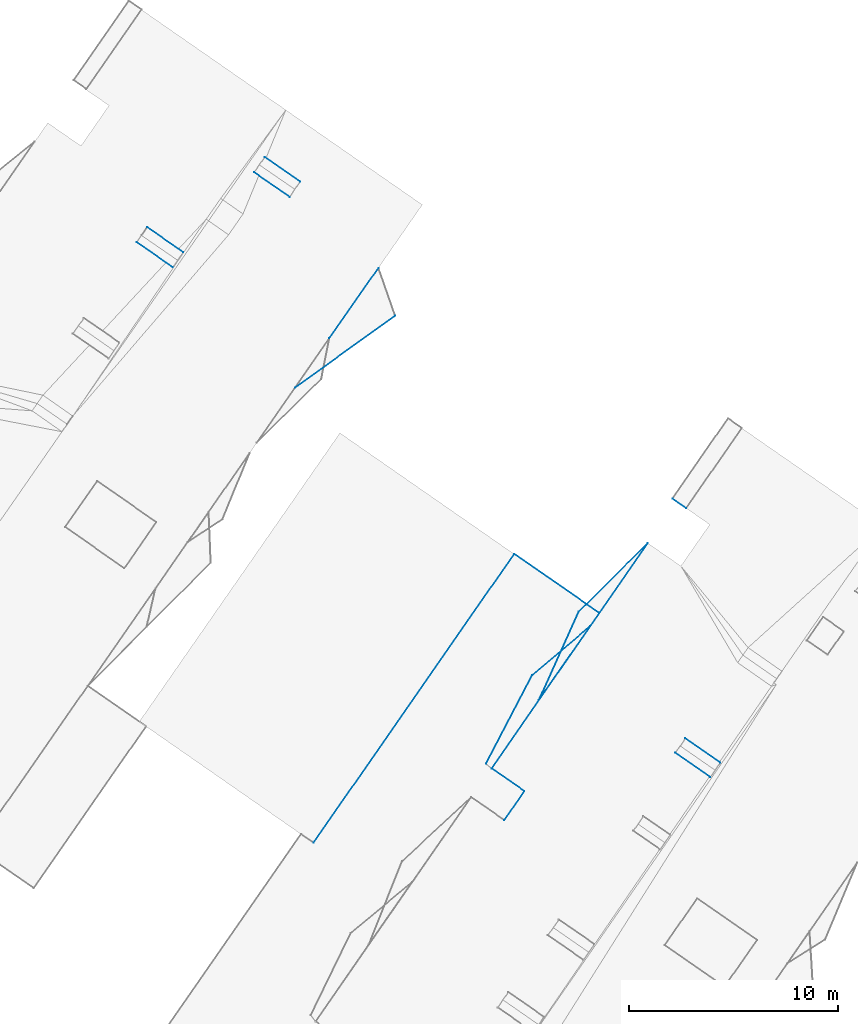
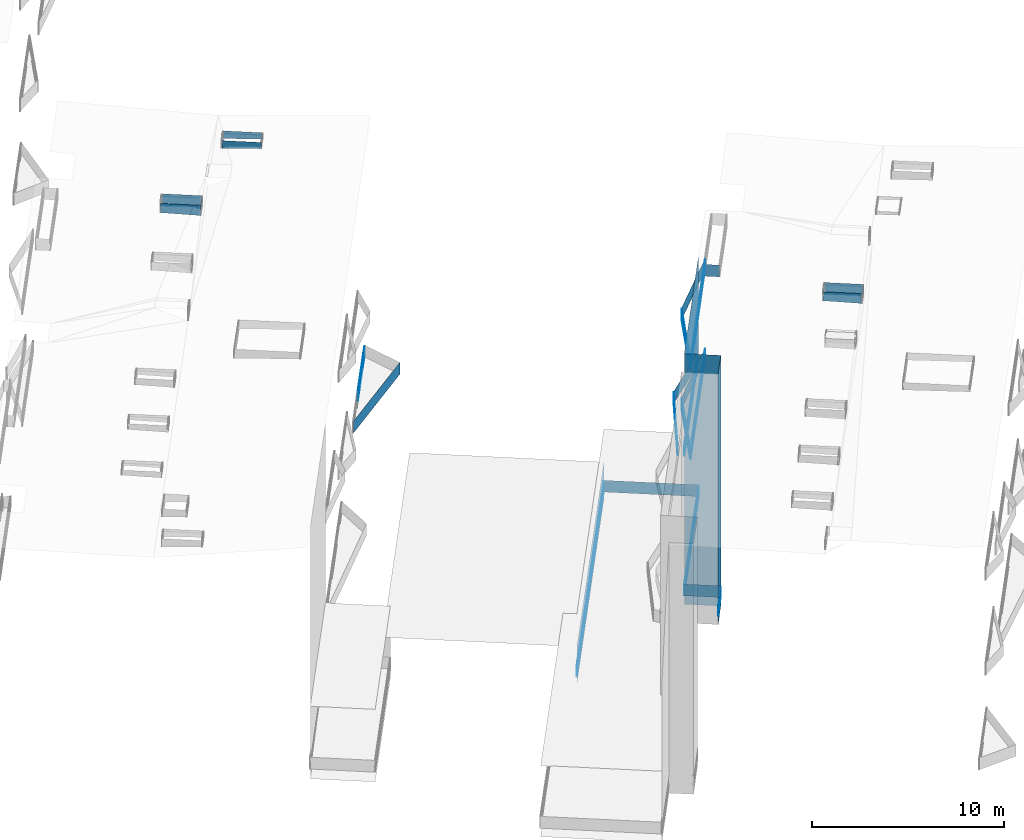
# Not in any storey, part 41 of 136: 44 walls.
"""IFC4 building model written with IfcOpenShell, lengths in metres."""

from ifc_helpers import new_model, entity, si_unit, converted_unit, frame, origin, place, context, subcontext, project, spatial, face_set, surface_model, element, save


model = new_model("IFC4")

# Units and contexts
model_context = context("Model", 3, precision=1e-05, world=origin())
body_context = subcontext(model_context, "Body", "Model", "MODEL_VIEW")
ifc_project = project(units=[converted_unit("PLANEANGLEUNIT", "DEGREE", entity("IfcRatioMeasure", 0.0174532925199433), si_unit("PLANEANGLEUNIT", "RADIAN"), dimensions=[0, 0, 0, 0, 0, 0, 0]), si_unit("AREAUNIT", "SQUARE_METRE"), si_unit("LENGTHUNIT", "METRE")], contexts=[model_context])

# Site, building
site_placement = place(None, origin())
site = spatial("IfcSite", under=ifc_project, at=site_placement, Name="_site")
building_1_placement = place(site_placement, origin())
building_1 = spatial("IfcBuilding", under=site, at=building_1_placement, Name="_building")

# Walls
wall_1_placement = place(building_1_placement, origin())
element("IfcWall", 1, at=wall_1_placement, inside=building_1, Name="Wall", PredefinedType="NOTDEFINED", context=body_context, shape_type="SurfaceModel", body=[
    surface_model("IfcFaceBasedSurfaceModel", [(-17.93, 61.93, 44.4), (-16.02, 66.17, 44.4), (-16.02, 66.17, 45.15), (-17.93, 61.93, 45.15)], [face_set([[[0, 1, 2, 3]]])]),
])
wall_2_placement = place(building_1_placement, origin())
element("IfcWall", 2, at=wall_2_placement, inside=building_1, Name="Wall", PredefinedType="NOTDEFINED", context=body_context, shape_type="SurfaceModel", body=[
    surface_model("IfcFaceBasedSurfaceModel", [(-16.02, 66.17, 44.4), (-12.71, 69.46, 44.4), (-12.71, 69.46, 45.15), (-16.02, 66.17, 45.15)], [face_set([[[0, 1, 2, 3]]])]),
])
wall_3_placement = place(building_1_placement, origin())
element("IfcWall", 3, at=wall_3_placement, inside=building_1, Name="Wall", PredefinedType="NOTDEFINED", context=body_context, shape_type="SurfaceModel", body=[
    surface_model("IfcFaceBasedSurfaceModel", [(-12.71, 69.46, 44.4), (-17.93, 61.93, 44.4), (-17.93, 61.93, 45.15), (-12.71, 69.46, 45.15)], [face_set([[[0, 1, 2, 3]]])]),
])
wall_4_placement = place(building_1_placement, origin())
element("IfcWall", 4, at=wall_4_placement, inside=building_1, Name="Wall", PredefinedType="NOTDEFINED", context=body_context, shape_type="SurfaceModel", body=[
    surface_model("IfcFaceBasedSurfaceModel", [(-16.02, 66.17, 44.4), (-12.71, 69.46, 44.4), (-12.71, 69.46, 45.15), (-16.02, 66.17, 45.15)], [face_set([[[0, 1, 2, 3]]])]),
])
wall_5_placement = place(building_1_placement, origin())
element("IfcWall", 5, at=wall_5_placement, inside=building_1, Name="Wall", PredefinedType="NOTDEFINED", context=body_context, shape_type="SurfaceModel", body=[
    surface_model("IfcFaceBasedSurfaceModel", [(-17.93, 61.93, 44.4), (-16.02, 66.17, 44.4), (-16.02, 66.17, 45.15), (-17.93, 61.93, 45.15)], [face_set([[[0, 1, 2, 3]]])]),
])
wall_6_placement = place(building_1_placement, origin())
element("IfcWall", 6, at=wall_6_placement, inside=building_1, Name="Wall", PredefinedType="NOTDEFINED", context=body_context, shape_type="SurfaceModel", body=[
    surface_model("IfcFaceBasedSurfaceModel", [(-12.71, 69.46, 44.4), (-17.93, 61.93, 44.4), (-17.93, 61.93, 45.15), (-12.71, 69.46, 45.15)], [face_set([[[0, 1, 2, 3]]])]),
])
wall_7_placement = place(building_1_placement, origin())
element("IfcWall", 7, at=wall_7_placement, inside=building_1, Name="Wall", PredefinedType="NOTDEFINED", context=body_context, shape_type="SurfaceModel", body=[
    surface_model("IfcFaceBasedSurfaceModel", [(-18.62, 57.58, 38.52), (-19.58, 56.19, 38.52), (-19.58, 56.19, 39.27), (-18.62, 57.58, 39.27)], [face_set([[[0, 1, 2, 3]]])]),
])
wall_8_placement = place(building_1_placement, origin())
element("IfcWall", 8, at=wall_8_placement, inside=building_1, Name="Wall", PredefinedType="NOTDEFINED", context=body_context, shape_type="SurfaceModel", body=[
    surface_model("IfcFaceBasedSurfaceModel", [(-20.19, 58.67, 38.52), (-18.62, 57.58, 38.52), (-18.62, 57.58, 39.27), (-20.19, 58.67, 39.27)], [face_set([[[0, 1, 2, 3]]])]),
])
wall_9_placement = place(building_1_placement, origin())
element("IfcWall", 9, at=wall_9_placement, inside=building_1, Name="Wall", PredefinedType="NOTDEFINED", context=body_context, shape_type="SurfaceModel", body=[
    surface_model("IfcFaceBasedSurfaceModel", [(-15.03, 66.11, 38.52), (-20.19, 58.67, 38.52), (-20.19, 58.67, 39.27), (-15.03, 66.11, 39.27)], [face_set([[[0, 1, 2, 3]]])]),
])
wall_10_placement = place(building_1_placement, origin())
element("IfcWall", 10, at=wall_10_placement, inside=building_1, Name="Wall", PredefinedType="NOTDEFINED", context=body_context, shape_type="SurfaceModel", body=[
    surface_model("IfcFaceBasedSurfaceModel", [(-19.11, 68.94, 38.52), (-15.03, 66.11, 38.52), (-15.03, 66.11, 39.27), (-19.11, 68.94, 39.27)], [face_set([[[0, 1, 2, 3]]])]),
])
wall_11_placement = place(building_1_placement, origin())
element("IfcWall", 11, at=wall_11_placement, inside=building_1, Name="Wall", PredefinedType="NOTDEFINED", context=body_context, shape_type="SurfaceModel", body=[
    surface_model("IfcFaceBasedSurfaceModel", [(-28.72, 55.11, 38.52), (-19.11, 68.94, 38.52), (-19.11, 68.94, 39.27), (-28.72, 55.11, 39.27)], [face_set([[[0, 1, 2, 3]]])]),
])
wall_12_placement = place(building_1_placement, origin())
element("IfcWall", 12, at=wall_12_placement, inside=building_1, Name="Wall", PredefinedType="NOTDEFINED", context=body_context, shape_type="SurfaceModel", body=[
    surface_model("IfcFaceBasedSurfaceModel", [(-10.91, 60.11, 54.35), (-9.24, 58.95, 54.35), (-9.24, 58.95, 53.711), (-10.91, 60.11, 53.766)], [face_set([[[0, 1, 2, 3]]])]),
])
wall_13_placement = place(building_1_placement, origin())
element("IfcWall", 13, at=wall_13_placement, inside=building_1, Name="Wall", PredefinedType="NOTDEFINED", context=body_context, shape_type="SurfaceModel", body=[
    surface_model("IfcFaceBasedSurfaceModel", [(-9.72, 58.26, 54.35), (-11.39, 59.42, 54.35), (-11.39, 59.42, 53.771), (-9.72, 58.26, 53.716)], [face_set([[[0, 1, 2, 3]]])]),
])
wall_14_placement = place(building_1_placement, origin())
element("IfcWall", 14, at=wall_14_placement, inside=building_1, Name="Wall", PredefinedType="NOTDEFINED", context=body_context, shape_type="SurfaceModel", body=[
    surface_model("IfcFaceBasedSurfaceModel", [(-18.62, 57.58, 53.94), (-20.19, 58.67, 53.94), (-20.19, 58.67, 37.98), (-18.62, 57.58, 37.98)], [face_set([[[0, 1, 2, 3]]])]),
])
wall_15_placement = place(building_1_placement, origin())
element("IfcWall", 15, at=wall_15_placement, inside=building_1, Name="Wall", PredefinedType="NOTDEFINED", context=body_context, shape_type="SurfaceModel", body=[
    surface_model("IfcFaceBasedSurfaceModel", [(-18.25, 63.13, 47.4), (-15.46, 65.49, 47.4), (-15.46, 65.49, 48.15), (-18.25, 63.13, 48.15)], [face_set([[[0, 1, 2, 3]]])]),
])
wall_16_placement = place(building_1_placement, origin())
element("IfcWall", 16, at=wall_16_placement, inside=building_1, Name="Wall", PredefinedType="NOTDEFINED", context=body_context, shape_type="SurfaceModel", body=[
    surface_model("IfcFaceBasedSurfaceModel", [(-20.46, 58.9, 47.4), (-18.25, 63.13, 47.4), (-18.25, 63.13, 48.15), (-20.46, 58.9, 48.15)], [face_set([[[0, 1, 2, 3]]])]),
])
wall_17_placement = place(building_1_placement, origin())
element("IfcWall", 17, at=wall_17_placement, inside=building_1, Name="Wall", PredefinedType="NOTDEFINED", context=body_context, shape_type="SurfaceModel", body=[
    surface_model("IfcFaceBasedSurfaceModel", [(-15.46, 65.49, 47.4), (-20.19, 58.67, 47.4), (-20.19, 58.67, 48.15), (-15.46, 65.49, 48.15)], [face_set([[[0, 1, 2, 3]]])]),
])
wall_18_placement = place(building_1_placement, origin())
element("IfcWall", 18, at=wall_18_placement, inside=building_1, Name="Wall", PredefinedType="NOTDEFINED", context=body_context, shape_type="SurfaceModel", body=[
    surface_model("IfcFaceBasedSurfaceModel", [(-18.25, 63.13, 47.4), (-15.46, 65.49, 47.4), (-15.46, 65.49, 48.15), (-18.25, 63.13, 48.15)], [face_set([[[0, 1, 2, 3]]])]),
])
wall_19_placement = place(building_1_placement, origin())
element("IfcWall", 19, at=wall_19_placement, inside=building_1, Name="Wall", PredefinedType="NOTDEFINED", context=body_context, shape_type="SurfaceModel", body=[
    surface_model("IfcFaceBasedSurfaceModel", [(-20.46, 58.9, 47.4), (-18.25, 63.13, 47.4), (-18.25, 63.13, 48.15), (-20.46, 58.9, 48.15)], [face_set([[[0, 1, 2, 3]]])]),
])
wall_20_placement = place(building_1_placement, origin())
element("IfcWall", 20, at=wall_20_placement, inside=building_1, Name="Wall", PredefinedType="NOTDEFINED", context=body_context, shape_type="SurfaceModel", body=[
    surface_model("IfcFaceBasedSurfaceModel", [(-15.46, 65.49, 47.4), (-20.19, 58.67, 47.4), (-20.19, 58.67, 48.15), (-15.46, 65.49, 48.15)], [face_set([[[0, 1, 2, 3]]])]),
])
wall_21_placement = place(building_1_placement, origin())
element("IfcWall", 21, at=wall_21_placement, inside=building_1, Name="Wall", PredefinedType="NOTDEFINED", context=body_context, shape_type="SurfaceModel", body=[
    surface_model("IfcFaceBasedSurfaceModel", [(-19.11, 68.94, 40.43), (-28.72, 55.11, 40.43), (-28.72, 55.11, 37.98), (-19.11, 68.94, 37.98)], [face_set([[[0, 1, 2, 3]]])]),
])
wall_22_placement = place(building_1_placement, origin())
element("IfcWall", 22, at=wall_22_placement, inside=building_1, Name="Wall", PredefinedType="NOTDEFINED", context=body_context, shape_type="SurfaceModel", body=[
    surface_model("IfcFaceBasedSurfaceModel", [(-20.19, 58.67, 53.94), (-15.03, 66.11, 53.94), (-15.03, 66.11, 37.98), (-20.19, 58.67, 37.98)], [face_set([[[0, 1, 2, 3]]])]),
])
wall_23_placement = place(building_1_placement, origin())
element("IfcWall", 23, at=wall_23_placement, inside=building_1, Name="Wall", PredefinedType="NOTDEFINED", context=body_context, shape_type="SurfaceModel", body=[
    surface_model("IfcFaceBasedSurfaceModel", [(-19.58, 56.19, 53.94), (-18.62, 57.58, 53.94), (-18.62, 57.58, 37.98), (-19.58, 56.19, 37.98)], [face_set([[[0, 1, 2, 3]]])]),
])
wall_24_placement = place(building_1_placement, origin())
element("IfcWall", 24, at=wall_24_placement, inside=building_1, Name="Wall", PredefinedType="NOTDEFINED", context=body_context, shape_type="SurfaceModel", body=[
    surface_model("IfcFaceBasedSurfaceModel", [(-18.62, 57.58, 38.52), (-19.58, 56.19, 38.52), (-19.58, 56.19, 39.27), (-18.62, 57.58, 39.27)], [face_set([[[0, 1, 2, 3]]])]),
])
for number, where, name in (
    (25, (0.0, 0.0, 0.0), "Wall"),
    (26, (0.0, 0.0, 0.0), "Wall"),
):
    element("IfcWall", number, at=place(building_1_placement, frame(where)), inside=building_1, Name=name, PredefinedType="NOTDEFINED", context=body_context, shape_type="SurfaceModel", body=[
        surface_model("IfcFaceBasedSurfaceModel", [(-10.87, 71.13, 48.01), (-11.53, 71.59, 48.01), (-11.53, 71.59, 48.76), (-10.87, 71.13, 48.76)], [face_set([[[0, 1, 2, 3]]])]),
    ])
wall_25_placement = place(building_1_placement, origin())
element("IfcWall", 27, at=wall_25_placement, inside=building_1, Name="Wall", PredefinedType="NOTDEFINED", context=body_context, shape_type="SurfaceModel", body=[
    surface_model("IfcFaceBasedSurfaceModel", [(-20.19, 58.67, 38.52), (-18.62, 57.58, 38.52), (-18.62, 57.58, 39.27), (-20.19, 58.67, 39.27)], [face_set([[[0, 1, 2, 3]]])]),
])
wall_26_placement = place(building_1_placement, origin())
element("IfcWall", 28, at=wall_26_placement, inside=building_1, Name="Wall", PredefinedType="NOTDEFINED", context=body_context, shape_type="SurfaceModel", body=[
    surface_model("IfcFaceBasedSurfaceModel", [(-15.03, 66.11, 38.52), (-20.19, 58.67, 38.52), (-20.19, 58.67, 39.27), (-15.03, 66.11, 39.27)], [face_set([[[0, 1, 2, 3]]])]),
])
wall_27_placement = place(building_1_placement, origin())
element("IfcWall", 29, at=wall_27_placement, inside=building_1, Name="Wall", PredefinedType="NOTDEFINED", context=body_context, shape_type="SurfaceModel", body=[
    surface_model("IfcFaceBasedSurfaceModel", [(-19.11, 68.94, 38.52), (-15.03, 66.11, 38.52), (-15.03, 66.11, 39.27), (-19.11, 68.94, 39.27)], [face_set([[[0, 1, 2, 3]]])]),
])
wall_28_placement = place(building_1_placement, origin())
element("IfcWall", 30, at=wall_28_placement, inside=building_1, Name="Wall", PredefinedType="NOTDEFINED", context=body_context, shape_type="SurfaceModel", body=[
    surface_model("IfcFaceBasedSurfaceModel", [(-16.02, 66.17, 50.1), (-12.71, 69.46, 50.1), (-12.71, 69.46, 50.85), (-16.02, 66.17, 50.85)], [face_set([[[0, 1, 2, 3]]])]),
])
wall_29_placement = place(building_1_placement, origin())
element("IfcWall", 31, at=wall_29_placement, inside=building_1, Name="Wall", PredefinedType="NOTDEFINED", context=body_context, shape_type="SurfaceModel", body=[
    surface_model("IfcFaceBasedSurfaceModel", [(-17.93, 61.93, 50.1), (-16.02, 66.17, 50.1), (-16.02, 66.17, 50.85), (-17.93, 61.93, 50.85)], [face_set([[[0, 1, 2, 3]]])]),
])
wall_30_placement = place(building_1_placement, origin())
element("IfcWall", 32, at=wall_30_placement, inside=building_1, Name="Wall", PredefinedType="NOTDEFINED", context=body_context, shape_type="SurfaceModel", body=[
    surface_model("IfcFaceBasedSurfaceModel", [(-12.71, 69.46, 50.1), (-17.93, 61.93, 50.1), (-17.93, 61.93, 50.85), (-12.71, 69.46, 50.85)], [face_set([[[0, 1, 2, 3]]])]),
])
wall_31_placement = place(building_1_placement, origin())
element("IfcWall", 33, at=wall_31_placement, inside=building_1, Name="Wall", PredefinedType="NOTDEFINED", context=body_context, shape_type="SurfaceModel", body=[
    surface_model("IfcFaceBasedSurfaceModel", [(-16.02, 66.17, 50.1), (-12.71, 69.46, 50.1), (-12.71, 69.46, 50.85), (-16.02, 66.17, 50.85)], [face_set([[[0, 1, 2, 3]]])]),
])
wall_32_placement = place(building_1_placement, origin())
element("IfcWall", 34, at=wall_32_placement, inside=building_1, Name="Wall", PredefinedType="NOTDEFINED", context=body_context, shape_type="SurfaceModel", body=[
    surface_model("IfcFaceBasedSurfaceModel", [(-17.93, 61.93, 50.1), (-16.02, 66.17, 50.1), (-16.02, 66.17, 50.85), (-17.93, 61.93, 50.85)], [face_set([[[0, 1, 2, 3]]])]),
])
wall_33_placement = place(building_1_placement, origin())
element("IfcWall", 35, at=wall_33_placement, inside=building_1, Name="Wall", PredefinedType="NOTDEFINED", context=body_context, shape_type="SurfaceModel", body=[
    surface_model("IfcFaceBasedSurfaceModel", [(-12.71, 69.46, 50.1), (-17.93, 61.93, 50.1), (-17.93, 61.93, 50.85), (-12.71, 69.46, 50.85)], [face_set([[[0, 1, 2, 3]]])]),
])

# Building
building_2_placement = place(site_placement, origin())
building_2 = spatial("IfcBuilding", under=site, at=building_2_placement, Name="_building")

# Walls
wall_34_placement = place(building_2_placement, origin())
element("IfcWall", 36, at=wall_34_placement, inside=building_2, Name="Wall", PredefinedType="NOTDEFINED", context=body_context, shape_type="SurfaceModel", body=[
    surface_model("IfcFaceBasedSurfaceModel", [(-28.72, 55.11, 38.52), (-19.11, 68.94, 38.52), (-19.11, 68.94, 39.27), (-28.72, 55.11, 39.27)], [face_set([[[0, 1, 2, 3]]])]),
])
wall_35_placement = place(building_2_placement, origin())
element("IfcWall", 37, at=wall_35_placement, inside=building_2, Name="Wall", PredefinedType="NOTDEFINED", context=body_context, shape_type="SurfaceModel", body=[
    surface_model("IfcFaceBasedSurfaceModel", [(-24.81, 80.351, 41.1), (-29.6, 76.91, 41.1), (-29.6, 76.91, 41.85), (-24.81, 80.351, 41.85)], [face_set([[[0, 1, 2, 3]]])]),
])
wall_36_placement = place(building_2_placement, origin())
element("IfcWall", 38, at=wall_36_placement, inside=building_2, Name="Wall", PredefinedType="NOTDEFINED", context=body_context, shape_type="SurfaceModel", body=[
    surface_model("IfcFaceBasedSurfaceModel", [(-27.96, 79.271, 41.1), (-25.61, 82.64, 41.1), (-25.61, 82.64, 41.85), (-27.96, 79.271, 41.85)], [face_set([[[0, 1, 2, 3]]])]),
])
wall_37_placement = place(building_2_placement, origin())
element("IfcWall", 39, at=wall_37_placement, inside=building_2, Name="Wall", PredefinedType="NOTDEFINED", context=body_context, shape_type="SurfaceModel", body=[
    surface_model("IfcFaceBasedSurfaceModel", [(-24.81, 80.351, 41.1), (-29.6, 76.91, 41.1), (-29.6, 76.91, 41.85), (-24.81, 80.351, 41.85)], [face_set([[[0, 1, 2, 3]]])]),
])
wall_38_placement = place(building_2_placement, origin())
element("IfcWall", 40, at=wall_38_placement, inside=building_2, Name="Wall", PredefinedType="NOTDEFINED", context=body_context, shape_type="SurfaceModel", body=[
    surface_model("IfcFaceBasedSurfaceModel", [(-27.96, 79.271, 41.1), (-25.61, 82.64, 41.1), (-25.61, 82.64, 41.85), (-27.96, 79.271, 41.85)], [face_set([[[0, 1, 2, 3]]])]),
])
wall_39_placement = place(building_2_placement, origin())
element("IfcWall", 41, at=wall_39_placement, inside=building_2, Name="Wall", PredefinedType="NOTDEFINED", context=body_context, shape_type="SurfaceModel", body=[
    surface_model("IfcFaceBasedSurfaceModel", [(-29.87, 86.04, 54.18), (-31.57, 87.22, 54.18), (-31.57, 87.22, 53.685), (-29.87, 86.04, 53.78)], [face_set([[[0, 1, 2, 3]]])]),
])
wall_40_placement = place(building_2_placement, origin())
element("IfcWall", 42, at=wall_40_placement, inside=building_2, Name="Wall", PredefinedType="NOTDEFINED", context=body_context, shape_type="SurfaceModel", body=[
    surface_model("IfcFaceBasedSurfaceModel", [(-35.46, 82.67, 54.18), (-37.19, 83.87, 54.18), (-37.19, 83.87, 53.587), (-35.46, 82.67, 53.525)], [face_set([[[0, 1, 2, 3]]])]),
])
wall_41_placement = place(building_2_placement, origin())
element("IfcWall", 43, at=wall_41_placement, inside=building_2, Name="Wall", PredefinedType="NOTDEFINED", context=body_context, shape_type="SurfaceModel", body=[
    surface_model("IfcFaceBasedSurfaceModel", [(-36.69, 84.59, 54.18), (-34.96, 83.39, 54.18), (-34.96, 83.39, 53.515), (-36.69, 84.59, 53.577)], [face_set([[[0, 1, 2, 3]]])]),
])
wall_42_placement = place(building_2_placement, origin())
element("IfcWall", 44, at=wall_42_placement, inside=building_2, Name="Wall", PredefinedType="NOTDEFINED", context=body_context, shape_type="SurfaceModel", body=[
    surface_model("IfcFaceBasedSurfaceModel", [(-31.06, 87.95, 54.18), (-29.37, 86.771, 54.18), (-29.37, 86.771, 53.78), (-31.06, 87.95, 53.686)], [face_set([[[0, 1, 2, 3]]])]),
])

save(model, "model.ifc")
